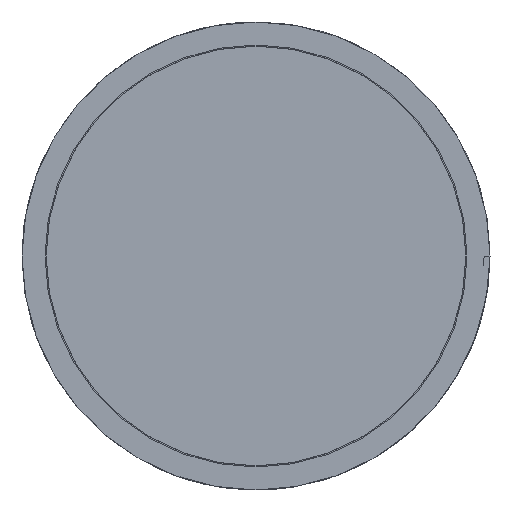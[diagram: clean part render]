
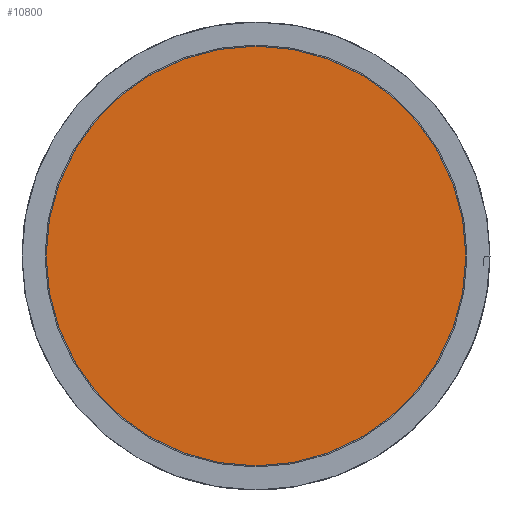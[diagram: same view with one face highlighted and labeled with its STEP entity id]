
A CAD part, front view. The second image highlights one B-rep face of the part: STEP entity #10800.
In plain terms, the highlighted planar face has unit normal (0, -1, 0).
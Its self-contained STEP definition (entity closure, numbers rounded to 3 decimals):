
#742 = AXIS2_PLACEMENT_3D ( 'NONE', #2829, #9946, #4805 ) ;
#804 = DIRECTION ( 'NONE',  ( -1., 0., 0. ) ) ;
#966 = ORIENTED_EDGE ( 'NONE', *, *, #7412, .F. ) ;
#1023 = ORIENTED_EDGE ( 'NONE', *, *, #1145, .F. ) ;
#1145 = EDGE_CURVE ( 'NONE', #10610, #9075, #11093, .T. ) ;
#1439 = DIRECTION ( 'NONE',  ( 1., 0., 0. ) ) ;
#1662 = PLANE ( 'NONE',  #10429 ) ;
#2829 = CARTESIAN_POINT ( 'NONE',  ( -13.347, 7.528, 17.327 ) ) ;
#3293 = FACE_OUTER_BOUND ( 'NONE', #5462, .T. ) ;
#3348 = CARTESIAN_POINT ( 'NONE',  ( -13.347, 7.528, 17.327 ) ) ;
#4805 = DIRECTION ( 'NONE',  ( -1., 0., 0. ) ) ;
#5462 = EDGE_LOOP ( 'NONE', ( #966, #1023 ) ) ;
#7005 = CARTESIAN_POINT ( 'NONE',  ( -13.347, 7.528, 17.327 ) ) ;
#7277 = CARTESIAN_POINT ( 'NONE',  ( -26.797, 7.528, 17.327 ) ) ;
#7412 = EDGE_CURVE ( 'NONE', #9075, #10610, #8183, .T. ) ;
#8183 = CIRCLE ( 'NONE', #8768, 13.45 ) ;
#8725 = DIRECTION ( 'NONE',  ( 0., 1., 0. ) ) ;
#8768 = AXIS2_PLACEMENT_3D ( 'NONE', #7005, #9001, #804 ) ;
#9001 = DIRECTION ( 'NONE',  ( 0., 1., 0. ) ) ;
#9075 = VERTEX_POINT ( 'NONE', #7277 ) ;
#9199 = CARTESIAN_POINT ( 'NONE',  ( 0.103, 7.528, 17.327 ) ) ;
#9946 = DIRECTION ( 'NONE',  ( 0., 1., 0. ) ) ;
#10429 = AXIS2_PLACEMENT_3D ( 'NONE', #3348, #8725, #1439 ) ;
#10610 = VERTEX_POINT ( 'NONE', #9199 ) ;
#10800 = ADVANCED_FACE ( 'NONE', ( #3293 ), #1662, .F. ) ;
#11093 = CIRCLE ( 'NONE', #742, 13.45 ) ;
